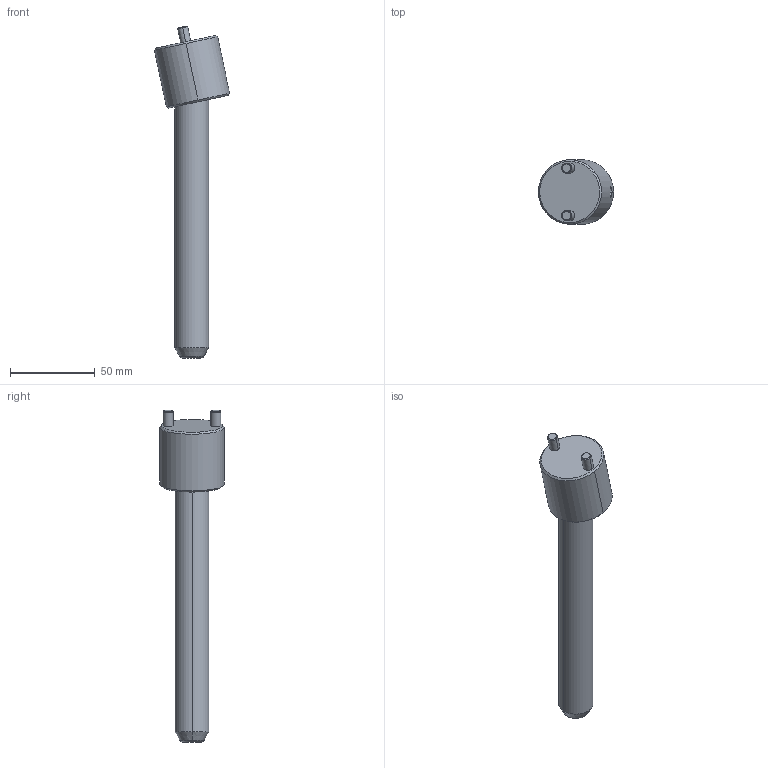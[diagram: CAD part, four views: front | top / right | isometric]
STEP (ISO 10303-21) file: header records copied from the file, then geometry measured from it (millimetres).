
FILE_DESCRIPTION(('CATIA V5 STEP Exchange'),'2;1');
FILE_NAME('C:\Users\Raffaele\Desktop\3D BOLEX\3D FILES CF BOLEX\19-INCLINED ASSEMBLY REF_CI\CI1220150.stp','2019-06-21T14:06:42+00:00',('none'),('none'),'CATIA Version 5 Release 20 GA (IN-10)','CATIA V5 STEP AP203','none');
FILE_SCHEMA(('CONFIG_CONTROL_DESIGN'));
Length unit declared in the file: millimetre
Products named in the file (1): CI1220150
Assembly tree (2 placements, depth 2):
  CI1220150
    #58
    #572
Bounding box: 44.24 x 38 x 195.37 mm (x, y, z)
Volume: 87226.9 mm3; surface area: 20587.5 mm2
Topology: 2 solids, 2 shells, 39 faces, 82 edges, 47 vertices
Faces by surface type: cone 14, cylinder 14, plane 7, torus 4
Entity records: 1506 total; most frequent: CARTESIAN_POINT 649, ORIENTED_EDGE 160, DIRECTION 144, EDGE_CURVE 80, AXIS2_PLACEMENT_3D 71, VERTEX_POINT 47, EDGE_LOOP 43, ADVANCED_FACE 39
